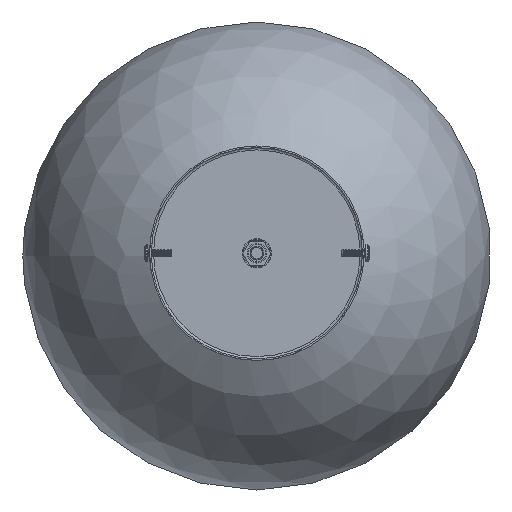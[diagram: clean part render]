
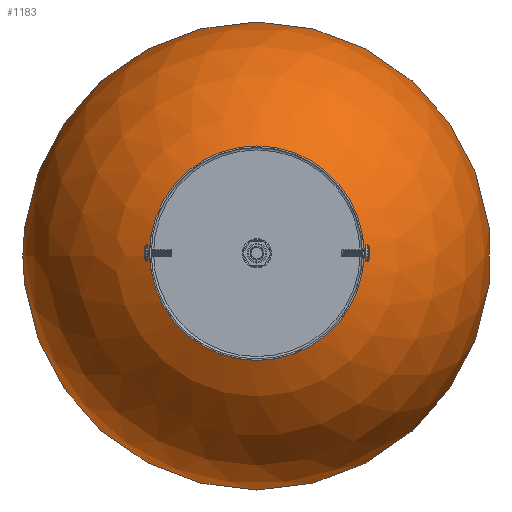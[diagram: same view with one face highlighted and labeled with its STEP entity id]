
A CAD part, top view. The second image highlights one B-rep face of the part: STEP entity #1183.
In plain terms, the highlighted spherical face has radius 120 mm.
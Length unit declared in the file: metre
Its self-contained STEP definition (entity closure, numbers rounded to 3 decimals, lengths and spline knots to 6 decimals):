
#1183 = ADVANCED_FACE( '', ( #2107, #2108 ), #2109, .T. );
#2107 = FACE_OUTER_BOUND( '', #3070, .T. );
#2108 = FACE_OUTER_BOUND( '', #3071, .T. );
#2109 = SPHERICAL_SURFACE( '', #3072, 0.12 );
#3070 = EDGE_LOOP( '', ( #4734 ) );
#3071 = EDGE_LOOP( '', ( #4735 ) );
#3072 = AXIS2_PLACEMENT_3D( '', #4736, #4737, #4738 );
#4734 = ORIENTED_EDGE( '', *, *, #5114, .F. );
#4735 = ORIENTED_EDGE( '', *, *, #5115, .F. );
#4736 = CARTESIAN_POINT( '', ( 0., 0., -0.833441 ) );
#4737 = DIRECTION( '', ( 0., 0., 1. ) );
#4738 = DIRECTION( '', ( 1., 0., 0. ) );
#5114 = EDGE_CURVE( '', #5820, #5820, #5821, .T. );
#5115 = EDGE_CURVE( '', #5822, #5822, #5823, .T. );
#5820 = VERTEX_POINT( '', #7224 );
#5821 = CIRCLE( '', #7225, 0.047025 );
#5822 = VERTEX_POINT( '', #7226 );
#5823 = CIRCLE( '', #7227, 0.02159 );
#7224 = CARTESIAN_POINT( '', ( -0.047025, 0., -0.943843 ) );
#7225 = AXIS2_PLACEMENT_3D( '', #8157, #8158, #8159 );
#7226 = CARTESIAN_POINT( '', ( -0.02159, 0., -0.715399 ) );
#7227 = AXIS2_PLACEMENT_3D( '', #8160, #8161, #8162 );
#8157 = CARTESIAN_POINT( '', ( 0., 0., -0.943843 ) );
#8158 = DIRECTION( '', ( 0., 0., -1. ) );
#8159 = DIRECTION( '', ( -1., 0., 0. ) );
#8160 = CARTESIAN_POINT( '', ( 0., 0., -0.715399 ) );
#8161 = DIRECTION( '', ( 0., 0., 1. ) );
#8162 = DIRECTION( '', ( 1., 0., 0. ) );
